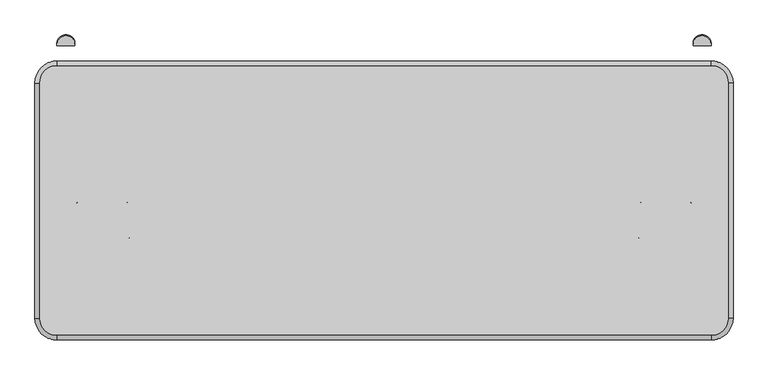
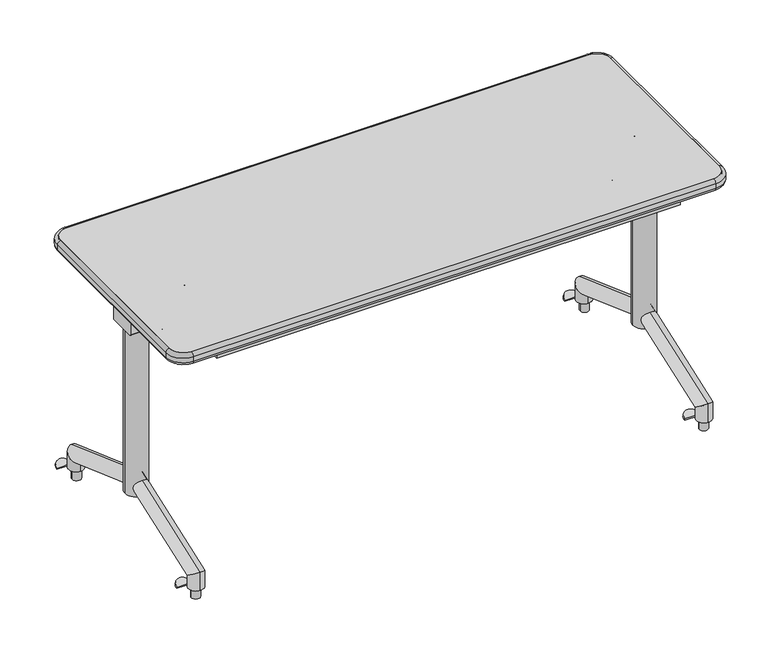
"""IFC4 building model written with IfcOpenShell, lengths in millimetres: furniture geometry, SmithSystem_AM_Table_Education_Elemental_NestAndFold_24D : 24D x 60W."""

from ifc_helpers import new_model, si_unit, point, frame, frame_2d, origin, place, context, project, spatial, polyline, circle_curve, ellipse_curve, trimmed, segment, composite_curve, outline, extrude, source, transform, mapped, element, save
from ifc_brep_helpers import plane_surface, cylinder_surface, revolved_surface, advanced_brep


def furniture_818722c3(model_context):
    return source(origin(), model_context, "Body", "SolidModel", [
        advanced_brep(
        [(1334.7134706, -300.3641301, 727.8257265), (1334.7134706, -307.6350093, 724.192725), (1327.0335156, -300.3641301, 727.8257265), (1327.0335156, -307.6350093, 724.192725), (1321.5159237, -312.5707555, 721.7265071), (1313.3879237, -312.5707555, 721.7265071), (1313.3879237, -377.8125708, 689.1274772), (1321.5159237, -377.8125708, 689.1274772), (1327.1310849, -382.8355973, 686.6176484), (1327.1310849, -390.1064765, 682.9846469), (1427.2139747, -390.1064765, 682.9846469), (1427.2139747, -382.8355973, 686.6176484), (1432.8070377, -377.8323387, 689.1175999), (1440.9350377, -377.8323387, 689.1175999), (1440.9350377, -312.6793981, 721.6722222), (1432.8070377, -312.6793981, 721.6722222), (1427.1679959, -307.6350093, 724.192725), (1427.1679959, -300.3641301, 727.8257265), (1419.6094908, -300.3641301, 727.8257265), (1419.6094908, -307.6350093, 724.192725)],
        [
            (0, 1, circle_curve(frame((1334.7134706, -303.9995697, 726.0092257), z_axis=(1.0, 0.0, 0.0), x_axis=(0.0, -0.8945471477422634, -0.44697360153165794)), 4.064)),
            (1, 0, circle_curve(frame((1334.7134706, -303.9995697, 726.0092257), z_axis=(1.0, 0.0, 0.0), x_axis=(0.0, -0.8945471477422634, -0.44697360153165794)), 4.064)),
            (0, 2),
            (2, 3, circle_curve(frame((1327.0335156, -303.9995697, 726.0092257), z_axis=(1.0, 0.0, 0.0), x_axis=(0.0, -0.8945471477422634, -0.44697360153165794)), 4.064)),
            (3, 1),
            (3, 2, circle_curve(frame((1327.0335156, -303.9995697, 726.0092257), z_axis=(1.0, 0.0, 0.0), x_axis=(0.0, -0.8945471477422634, -0.44697360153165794)), 4.064)),
            (4, 3, circle_curve(frame((1327.0335156, -312.5707555, 721.7265071), z_axis=(0.0, 0.4469736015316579, -0.8945471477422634), x_axis=(0.0, 0.8945471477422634, 0.4469736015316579)), 5.517592)),
            (2, 5, circle_curve(frame((1327.0335156, -312.5707555, 721.7265071), z_axis=(0.0, -0.4469736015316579, 0.8945471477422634), x_axis=(0.0, 0.8945471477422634, 0.4469736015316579)), 13.645592)),
            (5, 4, circle_curve(frame((1317.4519237, -312.5707555, 721.7265071), z_axis=(0.0, 0.8945471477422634, 0.44697360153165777), x_axis=(1.0, 0.0, 0.0)), 4.064)),
            (4, 5, circle_curve(frame((1317.4519237, -312.5707555, 721.7265071), z_axis=(0.0, 0.8945471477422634, 0.44697360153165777), x_axis=(1.0, 0.0, 0.0)), 4.064)),
            (5, 6),
            (6, 7, circle_curve(frame((1317.4519237, -377.8125708, 689.1274772), z_axis=(0.0, 0.8945471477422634, 0.44697360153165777), x_axis=(1.0, 0.0, 0.0)), 4.064)),
            (7, 4),
            (7, 6, circle_curve(frame((1317.4519237, -377.8125708, 689.1274772), z_axis=(0.0, 0.8945471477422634, 0.44697360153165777), x_axis=(1.0, 0.0, 0.0)), 4.064)),
            (8, 7, circle_curve(frame((1327.1310849, -377.8125708, 689.1274772), z_axis=(0.0, 0.4469736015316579, -0.8945471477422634), x_axis=(-1.0, 0.0, 0.0)), 5.6151612)),
            (6, 9, circle_curve(frame((1327.1310849, -377.8125708, 689.1274772), z_axis=(0.0, -0.4469736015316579, 0.8945471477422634), x_axis=(-1.0, 0.0, 0.0)), 13.7431612)),
            (9, 8, circle_curve(frame((1327.1310849, -386.4710369, 684.8011476), z_axis=(-1.0, 0.0, 0.0), x_axis=(0.0, 0.8945471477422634, 0.44697360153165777)), 4.064)),
            (8, 9, circle_curve(frame((1327.1310849, -386.4710369, 684.8011476), z_axis=(-1.0, 0.0, 0.0), x_axis=(0.0, 0.8945471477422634, 0.44697360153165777)), 4.064)),
            (9, 10),
            (10, 11, circle_curve(frame((1427.2139747, -386.4710369, 684.8011476), z_axis=(-1.0, 0.0, 0.0), x_axis=(0.0, 0.8945471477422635, 0.44697360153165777)), 4.064)),
            (11, 8),
            (11, 10, circle_curve(frame((1427.2139747, -386.4710369, 684.8011476), z_axis=(-1.0, 0.0, 0.0), x_axis=(0.0, 0.8945471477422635, 0.44697360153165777)), 4.064)),
            (12, 11, circle_curve(frame((1427.2139747, -377.8323387, 689.1175999), z_axis=(0.0, 0.4469736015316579, -0.8945471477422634), x_axis=(0.0, -0.8945471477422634, -0.4469736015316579)), 5.593063)),
            (10, 13, circle_curve(frame((1427.2139747, -377.8323387, 689.1175999), z_axis=(0.0, -0.4469736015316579, 0.8945471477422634), x_axis=(0.0, -0.8945471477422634, -0.4469736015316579)), 13.721063)),
            (13, 12, circle_curve(frame((1436.8710377, -377.8323387, 689.1175999), z_axis=(0.0, -0.8945471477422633, -0.44697360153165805), x_axis=(-1.0, 0.0, 0.0)), 4.064)),
            (12, 13, circle_curve(frame((1436.8710377, -377.8323387, 689.1175999), z_axis=(0.0, -0.8945471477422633, -0.44697360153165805), x_axis=(-1.0, 0.0, 0.0)), 4.064)),
            (13, 14),
            (14, 15, circle_curve(frame((1436.8710377, -312.6793981, 721.6722222), z_axis=(0.0, -0.894547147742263, -0.4469736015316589), x_axis=(-1.0, 0.0, 0.0)), 4.064)),
            (15, 12),
            (15, 14, circle_curve(frame((1436.8710377, -312.6793981, 721.6722222), z_axis=(0.0, -0.894547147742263, -0.4469736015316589), x_axis=(-1.0, 0.0, 0.0)), 4.064)),
            (16, 15, circle_curve(frame((1427.1679959, -312.6793981, 721.6722222), z_axis=(0.0, 0.4469736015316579, -0.8945471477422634), x_axis=(1.0, 0.0, 0.0)), 5.6390418)),
            (14, 17, circle_curve(frame((1427.1679959, -312.6793981, 721.6722222), z_axis=(0.0, -0.4469736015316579, 0.8945471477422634), x_axis=(1.0, 0.0, 0.0)), 13.7670418)),
            (17, 16, circle_curve(frame((1427.1679959, -303.9995697, 726.0092257), z_axis=(1.0, 0.0, 0.0), x_axis=(0.0, -0.8945471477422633, -0.446973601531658)), 4.064)),
            (16, 17, circle_curve(frame((1427.1679959, -303.9995697, 726.0092257), z_axis=(1.0, 0.0, 0.0), x_axis=(0.0, -0.8945471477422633, -0.446973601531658)), 4.064)),
            (18, 19, circle_curve(frame((1419.6094908, -303.9995697, 726.0092257), z_axis=(-1.0, 0.0, 0.0), x_axis=(0.0, -0.8945471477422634, -0.44697360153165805)), 4.064)),
            (19, 18, circle_curve(frame((1419.6094908, -303.9995697, 726.0092257), z_axis=(-1.0, 0.0, 0.0), x_axis=(0.0, -0.8945471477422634, -0.44697360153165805)), 4.064)),
            (17, 18),
            (19, 16),
        ],
        [
            plane_surface(frame((1334.7134706, -309.47432, 727.857014), z_axis=(1.0, 0.0, 0.0), x_axis=(0.0, -0.44697360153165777, 0.8945471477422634))),
            cylinder_surface(frame((1334.7134706, -303.9995697, 726.0092257), z_axis=(1.0, 0.0, 0.0), x_axis=(0.0, -0.8945471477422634, -0.44697360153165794)), 4.064),
            revolved_surface(trimmed(ellipse_curve(frame((1327.0335156, -303.9995697, 726.0092257), z_axis=(1.0, 0.0, 0.0), x_axis=(0.0, -0.8945471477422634, -0.44697360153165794)), 4.064, 4.064), [point((1327.0335156, -300.3641301, 727.8257265))], [point((1327.0335156, -307.6350093, 724.192725))], True, "CARTESIAN"), (1327.0335156, -314.4033484, 725.3941527), (0.0, -0.4469736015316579, 0.8945471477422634)),
            revolved_surface(trimmed(ellipse_curve(frame((1327.0335156, -303.9995697, 726.0092257), z_axis=(1.0, 0.0, 0.0), x_axis=(0.0, -0.8945471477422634, -0.44697360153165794)), 4.064, 4.064), [point((1327.0335156, -307.6350093, 724.192725))], [point((1327.0335156, -300.3641301, 727.8257265))], True, "CARTESIAN"), (1327.0335156, -314.4033484, 725.3941527), (0.0, -0.4469736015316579, 0.8945471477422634)),
            cylinder_surface(frame((1317.4519237, -312.5707555, 721.7265071), z_axis=(0.0, 0.8945471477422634, 0.44697360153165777), x_axis=(1.0, 0.0, 0.0)), 4.064),
            revolved_surface(trimmed(ellipse_curve(frame((1317.4519237, -377.8125708, 689.1274772), z_axis=(0.0, 0.8945471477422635, 0.4469736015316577), x_axis=(1.0, 0.0, 0.0)), 4.064, 4.064), [point((1313.3879237, -377.8125708, 689.1274772))], [point((1321.5159237, -377.8125708, 689.1274772))], True, "CARTESIAN"), (1327.1310849, -379.6451638, 692.7951229), (0.0, -0.4469736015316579, 0.8945471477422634)),
            revolved_surface(trimmed(ellipse_curve(frame((1317.4519237, -377.8125708, 689.1274772), z_axis=(0.0, 0.8945471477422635, 0.4469736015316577), x_axis=(1.0, 0.0, 0.0)), 4.064, 4.064), [point((1321.5159237, -377.8125708, 689.1274772))], [point((1313.3879237, -377.8125708, 689.1274772))], True, "CARTESIAN"), (1327.1310849, -379.6451638, 692.7951229), (0.0, -0.4469736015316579, 0.8945471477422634)),
            cylinder_surface(frame((1327.1310849, -386.4710369, 684.8011476), z_axis=(-1.0, 0.0, 0.0), x_axis=(0.0, 0.8945471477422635, 0.44697360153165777)), 4.064),
            revolved_surface(trimmed(ellipse_curve(frame((1427.2139747, -386.4710369, 684.8011476), z_axis=(-1.0, 0.0, 0.0), x_axis=(0.0, 0.8945471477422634, 0.4469736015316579)), 4.064, 4.064), [point((1427.2139747, -390.1064765, 682.9846469))], [point((1427.2139747, -382.8355973, 686.6176484))], True, "CARTESIAN"), (1427.2139747, -379.6649317, 692.7852455), (0.0, -0.4469736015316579, 0.8945471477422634)),
            revolved_surface(trimmed(ellipse_curve(frame((1427.2139747, -386.4710369, 684.8011476), z_axis=(-1.0, 0.0, 0.0), x_axis=(0.0, 0.8945471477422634, 0.4469736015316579)), 4.064, 4.064), [point((1427.2139747, -382.8355973, 686.6176484))], [point((1427.2139747, -390.1064765, 682.9846469))], True, "CARTESIAN"), (1427.2139747, -379.6649317, 692.7852455), (0.0, -0.4469736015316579, 0.8945471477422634)),
            cylinder_surface(frame((1436.8710377, -377.8323387, 689.1175999), z_axis=(0.0, -0.894547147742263, -0.4469736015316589), x_axis=(-1.0, 0.0, 0.0)), 4.064),
            revolved_surface(trimmed(ellipse_curve(frame((1436.8710377, -312.6793981, 721.6722222), z_axis=(0.0, -0.8945471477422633, -0.4469736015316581), x_axis=(-1.0, 0.0, 0.0)), 4.064, 4.064), [point((1440.9350377, -312.6793981, 721.6722222))], [point((1432.8070377, -312.6793981, 721.6722222))], True, "CARTESIAN"), (1427.1679959, -314.511991, 725.3398679), (0.0, -0.4469736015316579, 0.8945471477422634)),
            revolved_surface(trimmed(ellipse_curve(frame((1436.8710377, -312.6793981, 721.6722222), z_axis=(0.0, -0.8945471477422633, -0.4469736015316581), x_axis=(-1.0, 0.0, 0.0)), 4.064, 4.064), [point((1432.8070377, -312.6793981, 721.6722222))], [point((1440.9350377, -312.6793981, 721.6722222))], True, "CARTESIAN"), (1427.1679959, -314.511991, 725.3398679), (0.0, -0.4469736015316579, 0.8945471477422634)),
            plane_surface(frame((1419.6094908, -309.47432, 727.857014), z_axis=(-1.0, 0.0, 0.0), x_axis=(0.0, -0.4469736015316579, 0.8945471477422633))),
            cylinder_surface(frame((1427.1679959, -303.9995697, 726.0092257), z_axis=(1.0, 0.0, 0.0), x_axis=(0.0, -0.8945471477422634, -0.44697360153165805)), 4.064),
        ],
        [
            (0, [[1, 2]]),
            (1, [[-1, 3, 4, 5]]),
            (1, [[-2, -5, 6, -3]]),
            (2, [[7, -4, 8, 9]]),
            (3, [[-8, -6, -7, 10]]),
            (4, [[-9, 11, 12, 13]]),
            (4, [[-10, -13, 14, -11]]),
            (5, [[15, -12, 16, 17]]),
            (6, [[-16, -14, -15, 18]]),
            (7, [[-17, 19, 20, 21]]),
            (7, [[-18, -21, 22, -19]]),
            (8, [[23, -20, 24, 25]]),
            (9, [[-24, -22, -23, 26]]),
            (10, [[-25, 27, 28, 29]]),
            (10, [[-26, -29, 30, -27]]),
            (11, [[31, -28, 32, 33]]),
            (12, [[-32, -30, -31, 34]]),
            (13, [[35, 36]]),
            (14, [[-33, 37, -36, 38]]),
            (14, [[-34, -38, -35, -37]]),
        ],
    ),
        advanced_brep(
        [(189.2865294, -307.6222215, 724.1897867), (189.2865294, -300.3513423, 727.8227881), (196.9664844, -307.6222215, 724.1897867), (196.9664844, -300.3513423, 727.8227881), (210.6222023, -312.5670258, 721.7190427), (202.4942023, -312.5670258, 721.7190427), (202.4942023, -377.8088411, 689.1200128), (210.6222023, -377.8088411, 689.1200128), (196.8689151, -390.1118049, 682.9726565), (196.8689151, -382.8409257, 686.605658), (96.7860253, -382.8409257, 686.605658), (96.7860253, -390.1118049, 682.9726565), (83.0548363, -377.8286091, 689.1101355), (91.1828363, -377.8286091, 689.1101355), (91.1828363, -312.6756684, 721.6647578), (83.0548363, -312.6756684, 721.6647578), (96.8320041, -300.3513423, 727.8227881), (96.8320041, -307.6222215, 724.1897867), (104.3905092, -307.6222215, 724.1897867), (104.3905092, -300.3513423, 727.8227881)],
        [
            (0, 1, circle_curve(frame((189.2865294, -303.9867819, 726.0062874), z_axis=(-1.0, 0.0, 0.0), x_axis=(0.0, 0.8945471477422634, 0.4469736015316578)), 4.064)),
            (1, 0, circle_curve(frame((189.2865294, -303.9867819, 726.0062874), z_axis=(-1.0, 0.0, 0.0), x_axis=(0.0, 0.8945471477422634, 0.4469736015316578)), 4.064)),
            (0, 2),
            (2, 3, circle_curve(frame((196.9664844, -303.9867819, 726.0062874), z_axis=(-1.0, 0.0, 0.0), x_axis=(0.0, 0.8945471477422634, 0.4469736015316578)), 4.064)),
            (3, 1),
            (3, 2, circle_curve(frame((196.9664844, -303.9867819, 726.0062874), z_axis=(-1.0, 0.0, 0.0), x_axis=(0.0, 0.8945471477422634, 0.4469736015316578)), 4.064)),
            (4, 3, circle_curve(frame((196.9664844, -312.5670258, 721.7190427), z_axis=(0.0, -0.4469736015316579, 0.8945471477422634), x_axis=(0.0, 0.8945471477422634, 0.4469736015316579)), 13.6557179)),
            (2, 5, circle_curve(frame((196.9664844, -312.5670258, 721.7190427), z_axis=(0.0, 0.4469736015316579, -0.8945471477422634), x_axis=(0.0, 0.8945471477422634, 0.4469736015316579)), 5.5277179)),
            (5, 4, circle_curve(frame((206.5582023, -312.5670258, 721.7190427), z_axis=(0.0, 0.8945471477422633, 0.446973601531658), x_axis=(1.0, 0.0, 0.0)), 4.064)),
            (4, 5, circle_curve(frame((206.5582023, -312.5670258, 721.7190427), z_axis=(0.0, 0.8945471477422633, 0.446973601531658), x_axis=(1.0, 0.0, 0.0)), 4.064)),
            (5, 6),
            (6, 7, circle_curve(frame((206.5582023, -377.8088411, 689.1200128), z_axis=(0.0, 0.8945471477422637, 0.4469736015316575), x_axis=(1.0, 0.0, 0.0)), 4.064)),
            (7, 4),
            (7, 6, circle_curve(frame((206.5582023, -377.8088411, 689.1200128), z_axis=(0.0, 0.8945471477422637, 0.4469736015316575), x_axis=(1.0, 0.0, 0.0)), 4.064)),
            (8, 7, circle_curve(frame((196.8689151, -377.8088411, 689.1200128), z_axis=(0.0, -0.4469736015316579, 0.8945471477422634), x_axis=(1.0, 0.0, 0.0)), 13.7532872)),
            (6, 9, circle_curve(frame((196.8689151, -377.8088411, 689.1200128), z_axis=(0.0, 0.4469736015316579, -0.8945471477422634), x_axis=(1.0, 0.0, 0.0)), 5.6252872)),
            (9, 8, circle_curve(frame((196.8689151, -386.4763653, 684.7891573), z_axis=(1.0, 0.0, 0.0), x_axis=(0.0, -0.8945471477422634, -0.44697360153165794)), 4.064)),
            (8, 9, circle_curve(frame((196.8689151, -386.4763653, 684.7891573), z_axis=(1.0, 0.0, 0.0), x_axis=(0.0, -0.8945471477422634, -0.44697360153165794)), 4.064)),
            (9, 10),
            (10, 11, circle_curve(frame((96.7860253, -386.4763653, 684.7891573), z_axis=(1.0, 0.0, 0.0), x_axis=(0.0, -0.8945471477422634, -0.446973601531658)), 4.064)),
            (11, 8),
            (11, 10, circle_curve(frame((96.7860253, -386.4763653, 684.7891573), z_axis=(1.0, 0.0, 0.0), x_axis=(0.0, -0.8945471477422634, -0.446973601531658)), 4.064)),
            (12, 11, circle_curve(frame((96.7860253, -377.8286091, 689.1101355), z_axis=(0.0, -0.4469736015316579, 0.8945471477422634), x_axis=(0.0, -0.8945471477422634, -0.4469736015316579)), 13.7311889)),
            (10, 13, circle_curve(frame((96.7860253, -377.8286091, 689.1101355), z_axis=(0.0, 0.4469736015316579, -0.8945471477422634), x_axis=(0.0, -0.8945471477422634, -0.4469736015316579)), 5.6031889)),
            (13, 12, circle_curve(frame((87.1188363, -377.8286091, 689.1101355), z_axis=(0.0, -0.8945471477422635, -0.44697360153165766), x_axis=(-1.0, 0.0, 0.0)), 4.064)),
            (12, 13, circle_curve(frame((87.1188363, -377.8286091, 689.1101355), z_axis=(0.0, -0.8945471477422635, -0.44697360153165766), x_axis=(-1.0, 0.0, 0.0)), 4.064)),
            (13, 14),
            (14, 15, circle_curve(frame((87.1188363, -312.6756684, 721.6647578), z_axis=(0.0, -0.8945471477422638, -0.446973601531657), x_axis=(-1.0, 0.0, 0.0)), 4.064)),
            (15, 12),
            (15, 14, circle_curve(frame((87.1188363, -312.6756684, 721.6647578), z_axis=(0.0, -0.8945471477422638, -0.446973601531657), x_axis=(-1.0, 0.0, 0.0)), 4.064)),
            (16, 15, circle_curve(frame((96.8320041, -312.6756684, 721.6647578), z_axis=(0.0, -0.4469736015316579, 0.8945471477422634), x_axis=(-1.0, 0.0, 0.0)), 13.7771678)),
            (14, 17, circle_curve(frame((96.8320041, -312.6756684, 721.6647578), z_axis=(0.0, 0.4469736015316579, -0.8945471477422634), x_axis=(-1.0, 0.0, 0.0)), 5.6491678)),
            (17, 16, circle_curve(frame((96.8320041, -303.9867819, 726.0062874), z_axis=(-1.0, 0.0, 0.0), x_axis=(0.0, 0.8945471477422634, 0.44697360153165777)), 4.064)),
            (16, 17, circle_curve(frame((96.8320041, -303.9867819, 726.0062874), z_axis=(-1.0, 0.0, 0.0), x_axis=(0.0, 0.8945471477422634, 0.44697360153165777)), 4.064)),
            (18, 19, circle_curve(frame((104.3905092, -303.9867819, 726.0062874), z_axis=(1.0, 0.0, 0.0), x_axis=(0.0, 0.8945471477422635, 0.44697360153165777)), 4.064)),
            (19, 18, circle_curve(frame((104.3905092, -303.9867819, 726.0062874), z_axis=(1.0, 0.0, 0.0), x_axis=(0.0, 0.8945471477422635, 0.44697360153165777)), 4.064)),
            (17, 18),
            (19, 16),
        ],
        [
            plane_surface(frame((189.2865294, -309.47432, 727.857014), z_axis=(-1.0, 0.0, 0.0), x_axis=(0.0, -0.4469736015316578, 0.8945471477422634))),
            cylinder_surface(frame((189.2865294, -303.9867819, 726.0062874), z_axis=(-0.9999999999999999, 0.0, 0.0), x_axis=(0.0, 0.8945471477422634, 0.4469736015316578)), 4.064),
            revolved_surface(trimmed(ellipse_curve(frame((196.9664844, -303.9867819, 726.0062874), z_axis=(-1.0, 0.0, 0.0), x_axis=(0.0, 0.8945471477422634, 0.4469736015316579)), 4.064, 4.064), [point((196.9664844, -307.6222215, 724.1897867))], [point((196.9664844, -300.3513423, 727.8227881))], True, "CARTESIAN"), (196.9664844, -314.4033484, 725.3941527), (0.0, 0.4469736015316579, -0.8945471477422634)),
            revolved_surface(trimmed(ellipse_curve(frame((196.9664844, -303.9867819, 726.0062874), z_axis=(-1.0, 0.0, 0.0), x_axis=(0.0, 0.8945471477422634, 0.4469736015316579)), 4.064, 4.064), [point((196.9664844, -300.3513423, 727.8227881))], [point((196.9664844, -307.6222215, 724.1897867))], True, "CARTESIAN"), (196.9664844, -314.4033484, 725.3941527), (0.0, 0.4469736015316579, -0.8945471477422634)),
            cylinder_surface(frame((206.5582023, -312.5670258, 721.7190427), z_axis=(0.0, 0.8945471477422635, 0.4469736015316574), x_axis=(1.0, 0.0, 0.0)), 4.064),
            revolved_surface(trimmed(ellipse_curve(frame((206.5582023, -377.8088411, 689.1200128), z_axis=(0.0, 0.8945471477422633, 0.4469736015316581), x_axis=(1.0, 0.0, 0.0)), 4.064, 4.064), [point((202.4942023, -377.8088411, 689.1200128))], [point((210.6222023, -377.8088411, 689.1200128))], True, "CARTESIAN"), (196.8689151, -379.6451638, 692.7951229), (0.0, 0.4469736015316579, -0.8945471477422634)),
            revolved_surface(trimmed(ellipse_curve(frame((206.5582023, -377.8088411, 689.1200128), z_axis=(0.0, 0.8945471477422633, 0.4469736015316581), x_axis=(1.0, 0.0, 0.0)), 4.064, 4.064), [point((210.6222023, -377.8088411, 689.1200128))], [point((202.4942023, -377.8088411, 689.1200128))], True, "CARTESIAN"), (196.8689151, -379.6451638, 692.7951229), (0.0, 0.4469736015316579, -0.8945471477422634)),
            cylinder_surface(frame((196.8689151, -386.4763653, 684.7891573), z_axis=(1.0, 0.0, 0.0), x_axis=(0.0, -0.8945471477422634, -0.446973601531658)), 4.064),
            revolved_surface(trimmed(ellipse_curve(frame((96.7860253, -386.4763653, 684.7891573), z_axis=(1.0, 0.0, 0.0), x_axis=(0.0, -0.8945471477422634, -0.446973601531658)), 4.064, 4.064), [point((96.7860253, -382.8409257, 686.605658))], [point((96.7860253, -390.1118049, 682.9726565))], True, "CARTESIAN"), (96.7860253, -379.6649317, 692.7852455), (0.0, 0.4469736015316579, -0.8945471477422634)),
            revolved_surface(trimmed(ellipse_curve(frame((96.7860253, -386.4763653, 684.7891573), z_axis=(1.0, 0.0, 0.0), x_axis=(0.0, -0.8945471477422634, -0.446973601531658)), 4.064, 4.064), [point((96.7860253, -390.1118049, 682.9726565))], [point((96.7860253, -382.8409257, 686.605658))], True, "CARTESIAN"), (96.7860253, -379.6649317, 692.7852455), (0.0, 0.4469736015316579, -0.8945471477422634)),
            cylinder_surface(frame((87.1188363, -377.8286091, 689.1101355), z_axis=(0.0, -0.8945471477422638, -0.446973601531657), x_axis=(-1.0, 0.0, 0.0)), 4.064),
            revolved_surface(trimmed(ellipse_curve(frame((87.1188363, -312.6756684, 721.6647578), z_axis=(0.0, -0.8945471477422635, -0.4469736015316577), x_axis=(-1.0, 0.0, 0.0)), 4.064, 4.064), [point((91.1828363, -312.6756684, 721.6647578))], [point((83.0548363, -312.6756684, 721.6647578))], True, "CARTESIAN"), (96.8320041, -314.511991, 725.3398679), (0.0, 0.4469736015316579, -0.8945471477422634)),
            revolved_surface(trimmed(ellipse_curve(frame((87.1188363, -312.6756684, 721.6647578), z_axis=(0.0, -0.8945471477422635, -0.4469736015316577), x_axis=(-1.0, 0.0, 0.0)), 4.064, 4.064), [point((83.0548363, -312.6756684, 721.6647578))], [point((91.1828363, -312.6756684, 721.6647578))], True, "CARTESIAN"), (96.8320041, -314.511991, 725.3398679), (0.0, 0.4469736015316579, -0.8945471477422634)),
            plane_surface(frame((104.3905092, -309.47432, 727.857014), z_axis=(1.0, 0.0, 0.0), x_axis=(0.0, -0.4469736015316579, 0.8945471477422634))),
            cylinder_surface(frame((96.8320041, -303.9867819, 726.0062874), z_axis=(-1.0000000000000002, 0.0, 0.0), x_axis=(0.0, 0.8945471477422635, 0.44697360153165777)), 4.064),
        ],
        [
            (0, [[1, 2]]),
            (1, [[-1, 3, 4, 5]]),
            (1, [[-2, -5, 6, -3]]),
            (2, [[7, -4, 8, 9]]),
            (3, [[-8, -6, -7, 10]]),
            (4, [[-9, 11, 12, 13]]),
            (4, [[-10, -13, 14, -11]]),
            (5, [[15, -12, 16, 17]]),
            (6, [[-16, -14, -15, 18]]),
            (7, [[-17, 19, 20, 21]]),
            (7, [[-18, -21, 22, -19]]),
            (8, [[23, -20, 24, 25]]),
            (9, [[-24, -22, -23, 26]]),
            (10, [[-25, 27, 28, 29]]),
            (10, [[-26, -29, 30, -27]]),
            (11, [[31, -28, 32, 33]]),
            (12, [[-32, -30, -31, 34]]),
            (13, [[35, 36]]),
            (14, [[-33, 37, -36, 38]]),
            (14, [[-34, -38, -35, -37]]),
        ],
    ),
        extrude(outline(composite_curve([segment(trimmed(circle_curve(frame_2d((67.6376194, -304.8)), 30.1619336), [point((37.4756858, -304.8))], [point((97.799553, -304.8))], False, "CARTESIAN"), True, "CONTINUOUS"), segment(trimmed(circle_curve(frame_2d((67.6376194, -304.8)), 30.1619336), [point((97.799553, -304.8))], [point((37.4756858, -304.8))], False, "CARTESIAN"), True, "CONTINUOUS")], self_intersect=False)), frame((0.0, 0.0, 176.5765345), z_axis=(0.0, 0.0, 1.0), x_axis=(1.0, 0.0, 0.0)), (0.0, 0.0, 1.0), 482.8708043),
        extrude(outline(composite_curve([segment(trimmed(circle_curve(frame_2d((1456.3623806, -304.8)), 30.1619336), [point((1426.200447, -304.8))], [point((1486.5243142, -304.8))], False, "CARTESIAN"), True, "CONTINUOUS"), segment(trimmed(circle_curve(frame_2d((1456.3623806, -304.8)), 30.1619336), [point((1486.5243142, -304.8))], [point((1426.200447, -304.8))], False, "CARTESIAN"), True, "CONTINUOUS")], self_intersect=False)), frame((0.0, 0.0, 176.5765345), z_axis=(0.0, 0.0, 1.0), x_axis=(1.0, 0.0, 0.0)), (0.0, 0.0, 1.0), 482.8708043),
        extrude(outline(polyline([(161.8904019, -551.0151675), (133.8581916, -551.0151675), (133.8581916, -327.1633652), (161.8904019, -327.1633652), (161.8904019, -551.0151675)])), frame((0.0, 0.0, 720.280274), z_axis=(0.0, 0.0, 1.0), x_axis=(1.0, 0.0, 0.0)), (0.0, 0.0, 1.0), 3.0744342),
        extrude(outline(polyline([(1390.1418084, -551.0151675), (1362.1095981, -551.0151675), (1362.1095981, -327.1633652), (1390.1418084, -327.1633652), (1390.1418084, -551.0151675)])), frame((0.0, 0.0, 720.280274), z_axis=(0.0, 0.0, 1.0), x_axis=(1.0, 0.0, 0.0)), (0.0, 0.0, 1.0), 3.0744342),
        extrude(outline(polyline([(1395.6745397, -551.0143137), (1395.6745397, -581.0147172), (128.3254603, -581.0147172), (128.3254603, -551.0143137), (1395.6745397, -551.0143137)])), frame((0.0, 0.0, 702.9875008), z_axis=(0.0, 0.0, 1.0), x_axis=(1.0, 0.0, 0.0)), (0.0, 0.0, 1.0), 20.3672075),
        extrude(outline(polyline([(-282.4370254, 730.2285912), (-260.3053067, 730.2285912), (-260.3053067, 727.8836076), (-279.3992263, 727.8836076), (-279.3992263, 699.4317459), (-330.2007737, 699.4317459), (-330.2007737, 727.8836076), (-349.2946933, 727.8836076), (-349.2946933, 730.2285912), (-327.1629746, 730.2285912), (-327.1629746, 701.4207676), (-282.4370254, 701.4207676), (-282.4370254, 730.2285912)])), frame((211.3171616, 0.0, 0.0), z_axis=(1.0, 0.0, 0.0), x_axis=(0.0, 1.0, 0.0)), (0.0, 0.0, 1.0), 1101.3656767),
        extrude(outline(polyline([(699.4317459, 102.364461), (699.4317459, 191.3646412), (730.2285912, 191.3646412), (730.2285912, 188.3699958), (702.6757476, 188.3699958), (702.6757476, 105.3591064), (730.2285912, 105.3591064), (730.2285912, 102.364461), (699.4317459, 102.364461)])), frame((0.0, -479.7995835, 0.0), z_axis=(0.0, 1.0, 0.0), x_axis=(0.0, 0.0, 1.0)), (0.0, 0.0, 1.0), 349.999167),
        extrude(outline(polyline([(699.4317459, 1421.635539), (730.2285912, 1421.635539), (730.2285912, 1418.6408936), (702.6757476, 1418.6408936), (702.6757476, 1335.6300042), (730.2285912, 1335.6300042), (730.2285912, 1332.6353588), (699.4317459, 1332.6353588), (699.4317459, 1421.635539)])), frame((0.0, -479.7995835, 0.0), z_axis=(0.0, 1.0, 0.0), x_axis=(0.0, 0.0, 1.0)), (0.0, 0.0, 1.0), 349.999167),
        extrude(outline(composite_curve([segment(polyline([(-341.7081299, 699.4317459), (-267.7421288, 699.4317459)]), True, "CONTINUOUS"), segment(trimmed(circle_curve(frame_2d((-267.7421288, 696.268135)), 3.1636109), [point((-267.7421288, 699.4317459))], [point((-264.5785179, 696.268135))], False, "CARTESIAN"), True, "CONTINUOUS"), segment(polyline([(-264.5785179, 696.268135), (-264.5785179, 662.5890828)]), True, "CONTINUOUS"), segment(trimmed(circle_curve(frame_2d((-267.720262, 662.5890828)), 3.1417441), [point((-264.5785179, 662.5890828))], [point((-267.720262, 659.4473388))], False, "CARTESIAN"), True, "CONTINUOUS"), segment(polyline([(-267.720262, 659.4473388), (-341.8879819, 659.4473388)]), True, "CONTINUOUS"), segment(trimmed(circle_curve(frame_2d((-341.8879819, 662.3885905)), 2.9412518), [point((-341.8879819, 659.4473388))], [point((-344.8292336, 662.3885905))], False, "CARTESIAN"), True, "CONTINUOUS"), segment(polyline([(-344.8292336, 662.3885905), (-344.8292336, 696.3106422)]), True, "CONTINUOUS"), segment(trimmed(circle_curve(frame_2d((-341.7081299, 696.3106422)), 3.1211038), [point((-344.8292336, 696.3106422))], [point((-341.7081299, 699.4317459))], False, "CARTESIAN"), True, "CONTINUOUS")], self_intersect=False)), frame((29.2900918, 0.0, 0.0), z_axis=(1.0, 0.0, 0.0), x_axis=(0.0, 1.0, 0.0)), (0.0, 0.0, 1.0), 1465.4198163),
        advanced_brep(
        [(0.0, -47.752, 752.475029), (47.752, 0.0, 752.475029), (47.752, 0.0, 739.7749708), (0.0, -47.752, 739.7749708), (9.652, -47.752, 762.0), (47.752, -9.652, 762.0), (9.652, -47.752, 730.2285912), (47.752, -9.652, 730.2285912), (0.0, -561.848, 739.7749708), (0.0, -561.848, 752.475029), (9.652, -561.848, 762.0), (9.652, -561.848, 730.2285912), (47.752, -609.6, 752.475029), (47.752, -609.6, 739.7749708), (47.752, -599.948, 762.0), (47.752, -599.948, 730.2285912), (1476.248, -609.6, 739.7749708), (1476.248, -609.6, 752.475029), (1476.248, -599.948, 762.0), (1476.248, -599.948, 730.2285912), (1524.0, -561.848, 752.475029), (1524.0, -561.848, 739.7749708), (1514.348, -561.848, 762.0), (1514.348, -561.848, 730.2285912), (1524.0, -47.752, 739.7749708), (1524.0, -47.752, 752.475029), (1514.348, -47.752, 762.0), (1514.348, -47.752, 730.2285912), (1476.248, 0.0, 752.475029), (1476.248, 0.0, 739.7749708), (1476.248, -9.652, 762.0), (1476.248, -9.652, 730.2285912)],
        [
            (0, 1, circle_curve(frame((47.752, -47.752, 752.475029), z_axis=(0.0, 0.0, -1.0), x_axis=(0.0, 1.0, 0.0)), 47.752)),
            (1, 2),
            (2, 3, circle_curve(frame((47.752, -47.752, 739.7749708), z_axis=(0.0, 0.0, 1.0), x_axis=(0.0, 1.0, 0.0)), 47.752)),
            (3, 0),
            (4, 5, circle_curve(frame((47.752, -47.752, 762.0), z_axis=(0.0, 0.0, -1.0), x_axis=(0.0, 1.0, 0.0)), 38.1)),
            (5, 1, circle_curve(frame((47.752, -9.5258069, 752.475029), z_axis=(-1.0, 0.0, 0.0), x_axis=(0.0, -1.0, 0.0)), 9.5258069)),
            (0, 4, circle_curve(frame((9.5258069, -47.752, 752.475029), z_axis=(0.0, 1.0, 0.0), x_axis=(1.0, 0.0, 0.0)), 9.5258069)),
            (6, 7, circle_curve(frame((47.752, -47.752, 730.2285912), z_axis=(0.0, 0.0, -1.0), x_axis=(0.0, 1.0, 0.0)), 38.1)),
            (7, 5),
            (4, 6),
            (2, 7, circle_curve(frame((47.752, -9.5469575, 739.7749708), z_axis=(-1.0, 0.0, 0.0), x_axis=(0.0, -1.0, 0.0)), 9.5469575)),
            (6, 3, circle_curve(frame((9.5469575, -47.752, 739.7749708), z_axis=(0.0, 1.0, 0.0), x_axis=(1.0, 0.0, 0.0)), 9.5469575)),
            (3, 8),
            (8, 9),
            (9, 0),
            (9, 10, circle_curve(frame((9.5258069, -561.848, 752.475029), z_axis=(0.0, 1.0, 0.0), x_axis=(1.0, 0.0, 0.0)), 9.5258069)),
            (10, 4),
            (10, 11),
            (11, 6),
            (11, 8, circle_curve(frame((9.5469575, -561.848, 739.7749708), z_axis=(0.0, 1.0, 0.0), x_axis=(1.0, 0.0, 0.0)), 9.5469575)),
            (12, 9, circle_curve(frame((47.752, -561.848, 752.475029), z_axis=(0.0, 0.0, -1.0), x_axis=(-1.0, 0.0, 0.0)), 47.752)),
            (8, 13, circle_curve(frame((47.752, -561.848, 739.7749708), z_axis=(0.0, 0.0, 1.0), x_axis=(-1.0, 0.0, 0.0)), 47.752)),
            (13, 12),
            (14, 10, circle_curve(frame((47.752, -561.848, 762.0), z_axis=(0.0, 0.0, -1.0), x_axis=(-1.0, 0.0, 0.0)), 38.1)),
            (12, 14, circle_curve(frame((47.752, -600.0741931, 752.475029), z_axis=(-1.0, 0.0, 0.0), x_axis=(0.0, 1.0, 0.0)), 9.5258069)),
            (15, 11, circle_curve(frame((47.752, -561.848, 730.2285912), z_axis=(0.0, 0.0, -1.0), x_axis=(-1.0, 0.0, 0.0)), 38.1)),
            (14, 15),
            (15, 13, circle_curve(frame((47.752, -600.0530425, 739.7749708), z_axis=(-1.0, 0.0, 0.0), x_axis=(0.0, 1.0, 0.0)), 9.5469575)),
            (13, 16),
            (16, 17),
            (17, 12),
            (17, 18, circle_curve(frame((1476.248, -600.0741931, 752.475029), z_axis=(-1.0, 0.0, 0.0), x_axis=(0.0, 1.0, 0.0)), 9.5258069)),
            (18, 14),
            (18, 19),
            (19, 15),
            (19, 16, circle_curve(frame((1476.248, -600.0530425, 739.7749708), z_axis=(-1.0, 0.0, 0.0), x_axis=(0.0, 1.0, 0.0)), 9.5469575)),
            (20, 17, circle_curve(frame((1476.248, -561.848, 752.475029), z_axis=(0.0, 0.0, -1.0), x_axis=(0.0, -1.0, 0.0)), 47.752)),
            (16, 21, circle_curve(frame((1476.248, -561.848, 739.7749708), z_axis=(0.0, 0.0, 1.0), x_axis=(0.0, -1.0, 0.0)), 47.752)),
            (21, 20),
            (22, 18, circle_curve(frame((1476.248, -561.848, 762.0), z_axis=(0.0, 0.0, -1.0), x_axis=(0.0, -1.0, 0.0)), 38.1)),
            (20, 22, circle_curve(frame((1514.4741931, -561.848, 752.475029), z_axis=(0.0, -1.0, 0.0), x_axis=(-1.0, 0.0, 0.0)), 9.5258069)),
            (23, 19, circle_curve(frame((1476.248, -561.848, 730.2285912), z_axis=(0.0, 0.0, -1.0), x_axis=(0.0, -1.0, 0.0)), 38.1)),
            (22, 23),
            (23, 21, circle_curve(frame((1514.4530425, -561.848, 739.7749708), z_axis=(0.0, -1.0, 0.0), x_axis=(-1.0, 0.0, 0.0)), 9.5469575)),
            (21, 24),
            (24, 25),
            (25, 20),
            (25, 26, circle_curve(frame((1514.4741931, -47.752, 752.475029), z_axis=(0.0, -1.0, 0.0), x_axis=(-1.0, 0.0, 0.0)), 9.5258069)),
            (26, 22),
            (26, 27),
            (27, 23),
            (27, 24, circle_curve(frame((1514.4530425, -47.752, 739.7749708), z_axis=(0.0, -1.0, 0.0), x_axis=(-1.0, 0.0, 0.0)), 9.5469575)),
            (28, 25, circle_curve(frame((1476.248, -47.752, 752.475029), z_axis=(0.0, 0.0, -1.0), x_axis=(1.0, 0.0, 0.0)), 47.752)),
            (24, 29, circle_curve(frame((1476.248, -47.752, 739.7749708), z_axis=(0.0, 0.0, 1.0), x_axis=(1.0, 0.0, 0.0)), 47.752)),
            (29, 28),
            (30, 26, circle_curve(frame((1476.248, -47.752, 762.0), z_axis=(0.0, 0.0, -1.0), x_axis=(1.0, 0.0, 0.0)), 38.1)),
            (28, 30, circle_curve(frame((1476.248, -9.5258069, 752.475029), z_axis=(1.0, 0.0, 0.0), x_axis=(0.0, -1.0, 0.0)), 9.5258069)),
            (31, 27, circle_curve(frame((1476.248, -47.752, 730.2285912), z_axis=(0.0, 0.0, -1.0), x_axis=(1.0, 0.0, 0.0)), 38.1)),
            (30, 31),
            (31, 29, circle_curve(frame((1476.248, -9.5469575, 739.7749708), z_axis=(1.0, 0.0, 0.0), x_axis=(0.0, -1.0, 0.0)), 9.5469575)),
            (29, 2),
            (1, 28),
            (5, 30),
            (7, 31),
        ],
        [
            cylinder_surface(frame((47.752, -47.752, 0.0), z_axis=(0.0, 0.0, 1.0), x_axis=(0.0, 1.0, 0.0)), 47.752),
            revolved_surface(trimmed(ellipse_curve(frame((47.752, -9.5258069, 752.475029), z_axis=(1.0, 0.0, 0.0), x_axis=(0.0, -1.0, 0.0)), 9.5258069, 9.5258069), [point((47.752, 0.0, 752.475029))], [point((47.752, -9.652, 762.0))], True, "CARTESIAN"), (47.752, -47.752, 0.0), (0.0, 0.0, 1.0)),
            revolved_surface(polyline([(47.752, -9.652000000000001, 762.0), (47.752, -9.652000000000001, 730.2285912)]), (47.752, -47.752, 0.0), (0.0, 0.0, 1.0)),
            revolved_surface(trimmed(ellipse_curve(frame((47.752, -9.5469575, 739.7749708), z_axis=(1.0, 0.0, 0.0), x_axis=(0.0, -1.0, 0.0)), 9.5469575, 9.5469575), [point((47.752, -9.652, 730.2285912))], [point((47.752, 0.0, 739.7749708))], True, "CARTESIAN"), (47.752, -47.752, 0.0), (0.0, 0.0, 1.0)),
            plane_surface(frame((0.0, -47.752, 739.7749708), z_axis=(-1.0, 0.0, 0.0), x_axis=(0.0, -1.0, 0.0))),
            cylinder_surface(frame((9.5258069, -47.752, 752.475029), z_axis=(0.0, 1.0, 0.0), x_axis=(1.0, 0.0, 0.0)), 9.5258069),
            plane_surface(frame((9.652, -47.752, 762.0), z_axis=(1.0, 0.0, 0.0), x_axis=(0.0, -1.0, 0.0))),
            cylinder_surface(frame((9.5469575, -47.752, 739.7749708), z_axis=(0.0, 1.0, 0.0), x_axis=(1.0, 0.0, 0.0)), 9.5469575),
            cylinder_surface(frame((47.752, -561.848, 0.0), z_axis=(0.0, 0.0, 1.0), x_axis=(-1.0, 0.0, 0.0)), 47.752),
            revolved_surface(trimmed(ellipse_curve(frame((9.5258069, -561.848, 752.475029), z_axis=(0.0, 1.0, 0.0), x_axis=(1.0, 0.0, 0.0)), 9.5258069, 9.5258069), [point((0.0, -561.848, 752.475029))], [point((9.652, -561.848, 762.0))], True, "CARTESIAN"), (47.752, -561.848, 0.0), (0.0, 0.0, 1.0)),
            revolved_surface(polyline([(9.652000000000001, -561.848, 762.0), (9.652000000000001, -561.848, 730.2285912)]), (47.752, -561.848, 0.0), (0.0, 0.0, 1.0)),
            revolved_surface(trimmed(ellipse_curve(frame((9.5469575, -561.848, 739.7749708), z_axis=(0.0, 1.0, 0.0), x_axis=(1.0, 0.0, 0.0)), 9.5469575, 9.5469575), [point((9.652, -561.848, 730.2285912))], [point((0.0, -561.848, 739.7749708))], True, "CARTESIAN"), (47.752, -561.848, 0.0), (0.0, 0.0, 1.0)),
            plane_surface(frame((47.752, -609.6, 739.7749708), z_axis=(0.0, -1.0, 0.0), x_axis=(1.0, 0.0, 0.0))),
            cylinder_surface(frame((47.752, -600.0741931, 752.475029), z_axis=(-1.0, 0.0, 0.0), x_axis=(0.0, 1.0, 0.0)), 9.5258069),
            plane_surface(frame((47.752, -599.948, 762.0), z_axis=(0.0, 1.0, 0.0), x_axis=(1.0, 0.0, 0.0))),
            cylinder_surface(frame((47.752, -600.0530425, 739.7749708), z_axis=(-1.0, 0.0, 0.0), x_axis=(0.0, 1.0, 0.0)), 9.5469575),
            cylinder_surface(frame((1476.248, -561.848, 0.0), z_axis=(0.0, 0.0, 1.0), x_axis=(0.0, -1.0, 0.0)), 47.752),
            revolved_surface(trimmed(ellipse_curve(frame((1476.248, -600.0741931, 752.475029), z_axis=(-1.0, 0.0, 0.0), x_axis=(0.0, 1.0, 0.0)), 9.5258069, 9.5258069), [point((1476.248, -609.6, 752.475029))], [point((1476.248, -599.948, 762.0))], True, "CARTESIAN"), (1476.248, -561.848, 0.0), (0.0, 0.0, 1.0)),
            revolved_surface(polyline([(1476.248, -599.948, 762.0), (1476.248, -599.948, 730.2285912)]), (1476.248, -561.848, 0.0), (0.0, 0.0, 1.0)),
            revolved_surface(trimmed(ellipse_curve(frame((1476.248, -600.0530425, 739.7749708), z_axis=(-1.0, 0.0, 0.0), x_axis=(0.0, 1.0, 0.0)), 9.5469575, 9.5469575), [point((1476.248, -599.948, 730.2285912))], [point((1476.248, -609.6, 739.7749708))], True, "CARTESIAN"), (1476.248, -561.848, 0.0), (0.0, 0.0, 1.0)),
            plane_surface(frame((1524.0, -561.848, 739.7749708), z_axis=(1.0, 0.0, 0.0), x_axis=(0.0, 1.0, 0.0))),
            cylinder_surface(frame((1514.4741931, -561.848, 752.475029), z_axis=(0.0, -1.0, 0.0), x_axis=(-1.0, 0.0, 0.0)), 9.5258069),
            plane_surface(frame((1514.348, -561.848, 762.0), z_axis=(-1.0, 0.0, 0.0), x_axis=(0.0, 1.0, 0.0))),
            cylinder_surface(frame((1514.4530425, -561.848, 739.7749708), z_axis=(0.0, -1.0, 0.0), x_axis=(-1.0, 0.0, 0.0)), 9.5469575),
            cylinder_surface(frame((1476.248, -47.752, 0.0), z_axis=(0.0, 0.0, 1.0), x_axis=(1.0, 0.0, 0.0)), 47.752),
            revolved_surface(trimmed(ellipse_curve(frame((1514.4741931, -47.752, 752.475029), z_axis=(0.0, -1.0, 0.0), x_axis=(-1.0, 0.0, 0.0)), 9.5258069, 9.5258069), [point((1524.0, -47.752, 752.475029))], [point((1514.348, -47.752, 762.0))], True, "CARTESIAN"), (1476.248, -47.752, 0.0), (0.0, 0.0, 1.0)),
            revolved_surface(polyline([(1514.348, -47.752, 762.0), (1514.348, -47.752, 730.2285912)]), (1476.248, -47.752, 0.0), (0.0, 0.0, 1.0)),
            revolved_surface(trimmed(ellipse_curve(frame((1514.4530425, -47.752, 739.7749708), z_axis=(0.0, -1.0, 0.0), x_axis=(-1.0, 0.0, 0.0)), 9.5469575, 9.5469575), [point((1514.348, -47.752, 730.2285912))], [point((1524.0, -47.752, 739.7749708))], True, "CARTESIAN"), (1476.248, -47.752, 0.0), (0.0, 0.0, 1.0)),
            plane_surface(frame((1476.248, 0.0, 739.7749708), z_axis=(0.0, 1.0, 0.0), x_axis=(-1.0, 0.0, 0.0))),
            cylinder_surface(frame((1476.248, -9.5258069, 752.475029), z_axis=(1.0, 0.0, 0.0), x_axis=(0.0, -1.0, 0.0)), 9.5258069),
            plane_surface(frame((1476.248, -9.652, 762.0), z_axis=(0.0, -1.0, 0.0), x_axis=(-1.0, 0.0, 0.0))),
            cylinder_surface(frame((1476.248, -9.5469575, 739.7749708), z_axis=(1.0, 0.0, 0.0), x_axis=(0.0, -1.0, 0.0)), 9.5469575),
        ],
        [
            (0, [[1, 2, 3, 4]]),
            (1, [[5, 6, -1, 7]]),
            (2, [[8, 9, -5, 10]]),
            (3, [[-3, 11, -8, 12]]),
            (4, [[-4, 13, 14, 15]]),
            (5, [[-7, -15, 16, 17]]),
            (6, [[-10, -17, 18, 19]]),
            (7, [[-12, -19, 20, -13]]),
            (8, [[21, -14, 22, 23]]),
            (9, [[24, -16, -21, 25]]),
            (10, [[26, -18, -24, 27]]),
            (11, [[-22, -20, -26, 28]]),
            (12, [[-23, 29, 30, 31]]),
            (13, [[-25, -31, 32, 33]]),
            (14, [[-27, -33, 34, 35]]),
            (15, [[-28, -35, 36, -29]]),
            (16, [[37, -30, 38, 39]]),
            (17, [[40, -32, -37, 41]]),
            (18, [[42, -34, -40, 43]]),
            (19, [[-38, -36, -42, 44]]),
            (20, [[-39, 45, 46, 47]]),
            (21, [[-41, -47, 48, 49]]),
            (22, [[-43, -49, 50, 51]]),
            (23, [[-44, -51, 52, -45]]),
            (24, [[53, -46, 54, 55]]),
            (25, [[56, -48, -53, 57]]),
            (26, [[58, -50, -56, 59]]),
            (27, [[-54, -52, -58, 60]]),
            (28, [[-55, 61, -2, 62]]),
            (29, [[-57, -62, -6, 63]]),
            (30, [[-59, -63, -9, 64]]),
            (31, [[-60, -64, -11, -61]]),
        ],
    ),
        extrude(outline(composite_curve([segment(trimmed(circle_curve(frame_2d((1476.248, -47.752)), 38.1), [point((1476.248, -9.652))], [point((1514.348, -47.752))], False, "CARTESIAN"), True, "CONTINUOUS"), segment(polyline([(1514.348, -47.752), (1514.348, -561.848)]), True, "CONTINUOUS"), segment(trimmed(circle_curve(frame_2d((1476.248, -561.848)), 38.1), [point((1514.348, -561.848))], [point((1476.248, -599.948))], False, "CARTESIAN"), True, "CONTINUOUS"), segment(polyline([(1476.248, -599.948), (47.752, -599.948)]), True, "CONTINUOUS"), segment(trimmed(circle_curve(frame_2d((47.752, -561.848)), 38.1), [point((47.752, -599.948))], [point((9.652, -561.848))], False, "CARTESIAN"), True, "CONTINUOUS"), segment(polyline([(9.652, -561.848), (9.652, -47.752)]), True, "CONTINUOUS"), segment(trimmed(circle_curve(frame_2d((47.752, -47.752)), 38.1), [point((9.652, -47.752))], [point((47.752, -9.652))], False, "CARTESIAN"), True, "CONTINUOUS"), segment(polyline([(47.752, -9.652), (1476.248, -9.652)]), True, "CONTINUOUS")], self_intersect=False)), frame((0.0, 0.0, 730.2285912), z_axis=(0.0, 0.0, 1.0), x_axis=(1.0, 0.0, 0.0)), (0.0, 0.0, 1.0), 31.7714088),
        advanced_brep(
        [(1456.3623806, -609.5471229, 70.6186995), (1456.3623806, -567.7698231, 70.6186995), (1456.3623806, -567.7698231, 93.9831592), (1456.3623806, -609.5471229, 123.3523722), (1456.3623806, -304.7991012, 188.5857808), (1456.3623806, -304.7990952, 232.9842055), (1456.3623806, -41.8283238, 93.9830579), (1456.3623806, -0.051024, 123.3522623), (1456.3623806, -0.051024, 70.5787784), (1456.3623806, -41.8283238, 70.5787784)],
        [
            (0, 1, circle_curve(frame((1456.3623806, -588.658473, 70.6186995), z_axis=(0.0, 0.0, -1.0), x_axis=(0.0, 1.0, 0.0)), 20.8886499)),
            (1, 0, circle_curve(frame((1456.3623806, -588.658473, 70.6186995), z_axis=(0.0, 0.0, -1.0), x_axis=(0.0, 1.0, 0.0)), 20.8886499)),
            (1, 2),
            (2, 3, ellipse_curve(frame((1456.3623806, -588.658473, 108.6677657), z_axis=(0.0, -0.5751053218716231, -0.8180793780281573), x_axis=(0.0, 0.8180793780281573, -0.5751053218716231)), 25.5337691, 20.8886499)),
            (3, 0),
            (3, 2, ellipse_curve(frame((1456.3623806, -588.658473, 108.6677657), z_axis=(0.0, -0.5751053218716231, -0.8180793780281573), x_axis=(0.0, 0.8180793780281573, -0.5751053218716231)), 25.5337691, 20.8886499)),
            (2, 4),
            (4, 5, ellipse_curve(frame((1456.3623806, -304.7990982, 210.7849931), z_axis=(0.0, -0.9999999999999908, 1.3700446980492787e-07), x_axis=(0.0, -1.3700446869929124e-07, -0.9999999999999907)), 22.1992124, 20.8886499)),
            (5, 3),
            (5, 4, ellipse_curve(frame((1456.3623806, -304.7990982, 210.7849931), z_axis=(0.0, -0.9999999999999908, 1.3700446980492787e-07), x_axis=(0.0, -1.3700446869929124e-07, -0.9999999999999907)), 22.1992124, 20.8886499)),
            (4, 6),
            (6, 7, ellipse_curve(frame((1456.3623806, -20.9396739, 108.6676601), z_axis=(0.0, -0.5751052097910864, 0.8180794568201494), x_axis=(0.0, -0.8180794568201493, -0.5751052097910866)), 25.5337666, 20.8886499)),
            (7, 5),
            (7, 6, ellipse_curve(frame((1456.3623806, -20.9396739, 108.6676601), z_axis=(0.0, -0.5751052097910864, 0.8180794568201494), x_axis=(0.0, -0.8180794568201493, -0.5751052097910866)), 25.5337666, 20.8886499)),
            (8, 9, circle_curve(frame((1456.3623806, -20.9396739, 70.5787784), z_axis=(0.0, 0.0, -1.0), x_axis=(0.0, -1.0, 0.0)), 20.8886499)),
            (9, 8, circle_curve(frame((1456.3623806, -20.9396739, 70.5787784), z_axis=(0.0, 0.0, -1.0), x_axis=(0.0, -1.0, 0.0)), 20.8886499)),
            (6, 9),
            (8, 7),
        ],
        [
            plane_surface(frame((1221.0646961, -567.727356, 70.6186995), z_axis=(0.0, 0.0, -1.0), x_axis=(-1.0, 0.0, 0.0))),
            cylinder_surface(frame((1456.3623806, -588.658473, 70.6186995), z_axis=(0.0, 0.0, -1.0), x_axis=(0.0, 1.0, 0.0)), 20.8886499),
            cylinder_surface(frame((1456.3623806, -574.8127011, 113.6487245), z_axis=(0.0, -0.9409636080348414, -0.33850773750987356), x_axis=(0.0, 0.33850773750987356, -0.9409636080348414)), 20.8886499),
            cylinder_surface(frame((1456.3623806, -297.7137508, 208.2360667), z_axis=(0.0, -0.9409635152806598, 0.3385079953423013), x_axis=(0.0, -0.3385079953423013, -0.9409635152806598)), 20.8886499),
            plane_surface(frame((1221.0646961, -41.8707909, 70.5787784), z_axis=(0.0, 0.0, -1.0), x_axis=(-1.0, 0.0, 0.0))),
            cylinder_surface(frame((1456.3623806, -20.9396739, 93.9532037), z_axis=(0.0, 0.0, 1.0), x_axis=(0.0, -1.0, 0.0)), 20.8886499),
        ],
        [
            (0, [[1, 2]]),
            (1, [[-2, 3, 4, 5]]),
            (1, [[-1, -5, 6, -3]]),
            (2, [[-4, 7, 8, 9]]),
            (2, [[-6, -9, 10, -7]]),
            (3, [[-8, 11, 12, 13]]),
            (3, [[-10, -13, 14, -11]]),
            (4, [[15, 16]]),
            (5, [[-12, 17, -15, 18]]),
            (5, [[-14, -18, -16, -17]]),
        ],
    ),
        extrude(outline(composite_curve([segment(trimmed(circle_curve(frame_2d((67.6376194, -586.9963133)), 11.938), [point((55.6996194, -586.9963133))], [point((79.5756194, -586.9963133))], False, "CARTESIAN"), True, "CONTINUOUS"), segment(trimmed(circle_curve(frame_2d((67.6376194, -586.9963133)), 11.938), [point((79.5756194, -586.9963133))], [point((55.6996194, -586.9963133))], False, "CARTESIAN"), True, "CONTINUOUS")], self_intersect=False)), frame((0.0, 0.0, 40.2035231), z_axis=(0.0, 0.0, 1.0), x_axis=(1.0, 0.0, 0.0)), (0.0, 0.0, 1.0), 63.0595327),
        extrude(outline(composite_curve([segment(trimmed(circle_curve(frame_2d((1456.3623806, -586.9963133)), 11.938), [point((1444.4243806, -586.9963133))], [point((1468.3003806, -586.9963133))], False, "CARTESIAN"), True, "CONTINUOUS"), segment(trimmed(circle_curve(frame_2d((1456.3623806, -586.9963133)), 11.938), [point((1468.3003806, -586.9963133))], [point((1444.4243806, -586.9963133))], False, "CARTESIAN"), True, "CONTINUOUS")], self_intersect=False)), frame((0.0, 0.0, 40.2035231), z_axis=(0.0, 0.0, 1.0), x_axis=(1.0, 0.0, 0.0)), (0.0, 0.0, 1.0), 63.0595327),
        extrude(outline(composite_curve([segment(trimmed(circle_curve(frame_2d((67.6376194, -22.6036867)), 11.938), [point((55.6996194, -22.6036867))], [point((79.5756194, -22.6036867))], False, "CARTESIAN"), True, "CONTINUOUS"), segment(trimmed(circle_curve(frame_2d((67.6376194, -22.6036867)), 11.938), [point((79.5756194, -22.6036867))], [point((55.6996194, -22.6036867))], False, "CARTESIAN"), True, "CONTINUOUS")], self_intersect=False)), frame((0.0, 0.0, 40.2035231), z_axis=(0.0, 0.0, 1.0), x_axis=(1.0, 0.0, 0.0)), (0.0, 0.0, 1.0), 63.0595327),
        extrude(outline(composite_curve([segment(trimmed(circle_curve(frame_2d((1456.3623806, -22.6036867)), 11.938), [point((1444.4243806, -22.6036867))], [point((1468.3003806, -22.6036867))], False, "CARTESIAN"), True, "CONTINUOUS"), segment(trimmed(circle_curve(frame_2d((1456.3623806, -22.6036867)), 11.938), [point((1468.3003806, -22.6036867))], [point((1444.4243806, -22.6036867))], False, "CARTESIAN"), True, "CONTINUOUS")], self_intersect=False)), frame((0.0, 0.0, 40.2035231), z_axis=(0.0, 0.0, 1.0), x_axis=(1.0, 0.0, 0.0)), (0.0, 0.0, 1.0), 63.0595327),
        advanced_brep(
        [(67.6376194, -567.7698231, 70.6186995), (67.6376194, -609.5471229, 70.6186995), (67.6376194, -567.7698231, 93.9831592), (67.6376194, -609.5471229, 123.3523722), (67.6376194, -304.7991012, 188.5857808), (67.6376194, -304.7990952, 232.9842055), (67.6376194, -41.8283238, 93.9830579), (67.6376194, -0.051024, 123.3522623), (67.6376194, -41.8283238, 70.5787784), (67.6376194, -0.051024, 70.5787784)],
        [
            (0, 1, circle_curve(frame((67.6376194, -588.658473, 70.6186995), z_axis=(0.0, 0.0, -1.0), x_axis=(0.0, -1.0, 0.0)), 20.8886499)),
            (1, 0, circle_curve(frame((67.6376194, -588.658473, 70.6186995), z_axis=(0.0, 0.0, -1.0), x_axis=(0.0, -1.0, 0.0)), 20.8886499)),
            (0, 2),
            (2, 3, ellipse_curve(frame((67.6376194, -588.658473, 108.6677657), z_axis=(0.0, -0.5751053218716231, -0.8180793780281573), x_axis=(0.0, 0.8180793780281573, -0.5751053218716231)), 25.5337691, 20.8886499)),
            (3, 1),
            (3, 2, ellipse_curve(frame((67.6376194, -588.658473, 108.6677657), z_axis=(0.0, -0.5751053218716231, -0.8180793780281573), x_axis=(0.0, 0.8180793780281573, -0.5751053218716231)), 25.5337691, 20.8886499)),
            (2, 4),
            (4, 5, ellipse_curve(frame((67.6376194, -304.7990982, 210.7849931), z_axis=(0.0, -0.9999999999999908, 1.3700446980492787e-07), x_axis=(0.0, -1.3700446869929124e-07, -0.9999999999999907)), 22.1992124, 20.8886499)),
            (5, 3),
            (5, 4, ellipse_curve(frame((67.6376194, -304.7990982, 210.7849931), z_axis=(0.0, -0.9999999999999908, 1.3700446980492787e-07), x_axis=(0.0, -1.3700446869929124e-07, -0.9999999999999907)), 22.1992124, 20.8886499)),
            (4, 6),
            (6, 7, ellipse_curve(frame((67.6376194, -20.9396739, 108.6676601), z_axis=(0.0, -0.5751052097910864, 0.8180794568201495), x_axis=(0.0, -0.8180794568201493, -0.5751052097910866)), 25.5337666, 20.8886499)),
            (7, 5),
            (7, 6, ellipse_curve(frame((67.6376194, -20.9396739, 108.6676601), z_axis=(0.0, -0.5751052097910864, 0.8180794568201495), x_axis=(0.0, -0.8180794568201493, -0.5751052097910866)), 25.5337666, 20.8886499)),
            (8, 9, circle_curve(frame((67.6376194, -20.9396739, 70.5787784), z_axis=(0.0, 0.0, -1.0), x_axis=(0.0, 1.0, 0.0)), 20.8886499)),
            (9, 8, circle_curve(frame((67.6376194, -20.9396739, 70.5787784), z_axis=(0.0, 0.0, -1.0), x_axis=(0.0, 1.0, 0.0)), 20.8886499)),
            (6, 8),
            (9, 7),
        ],
        [
            plane_surface(frame((0.0, -567.727356, 70.6186995), z_axis=(0.0, 0.0, -1.0), x_axis=(1.0, 0.0, 0.0))),
            cylinder_surface(frame((67.6376194, -588.658473, 70.6186995), z_axis=(0.0, 0.0, -1.0), x_axis=(0.0, -1.0, 0.0)), 20.8886499),
            cylinder_surface(frame((67.6376194, -574.8127011, 113.6487245), z_axis=(0.0, -0.9409636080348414, -0.33850773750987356), x_axis=(0.0, -0.33850773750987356, 0.9409636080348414)), 20.8886499),
            cylinder_surface(frame((67.6376194, -297.7137508, 208.2360667), z_axis=(0.0, -0.9409635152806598, 0.3385079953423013), x_axis=(0.0, 0.3385079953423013, 0.9409635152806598)), 20.8886499),
            plane_surface(frame((0.0, -41.8707909, 70.5787784), z_axis=(0.0, 0.0, -1.0), x_axis=(1.0, 0.0, 0.0))),
            cylinder_surface(frame((67.6376194, -20.9396739, 93.9532037), z_axis=(0.0, 0.0, 1.0), x_axis=(0.0, 1.0, 0.0)), 20.8886499),
        ],
        [
            (0, [[1, 2]]),
            (1, [[-1, 3, 4, 5]]),
            (1, [[-2, -5, 6, -3]]),
            (2, [[-4, 7, 8, 9]]),
            (2, [[-6, -9, 10, -7]]),
            (3, [[-8, 11, 12, 13]]),
            (3, [[-10, -13, 14, -11]]),
            (4, [[15, 16]]),
            (5, [[-12, 17, -16, 18]]),
            (5, [[-14, -18, -15, -17]]),
        ],
    ),
        extrude(outline(composite_curve([segment(trimmed(circle_curve(frame_2d((19.6281289, -2.9116942)), 19.8429183), [point((39.2562578, 0.0))], [point((0.0, 0.0))], False, "CARTESIAN"), True, "CONTINUOUS"), segment(polyline([(0.0, 0.0), (39.2562578, 0.0)]), True, "CONTINUOUS")], self_intersect=False)), frame((1475.9610423, 35.9312028, 35.4234949), z_axis=(0.0, -0.3384834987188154, 0.9409723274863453), x_axis=(-1.0, 0.0, 0.0)), (0.0, 0.0, 1.0), 5.0798819),
        extrude(outline(composite_curve([segment(polyline([(1388.6658268, 0.0), (1427.9220846, 0.0)]), True, "CONTINUOUS"), segment(trimmed(circle_curve(frame_2d((1408.2939557, -2.9116942)), 19.8429183), [point((1427.9220846, 0.0))], [point((1388.6658268, 0.0))], False, "CARTESIAN"), True, "CONTINUOUS")], self_intersect=False)), frame((1475.9610423, 35.9312028, 35.4234949), z_axis=(0.0, -0.3384834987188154, 0.9409723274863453), x_axis=(-1.0, 0.0, 0.0)), (0.0, 0.0, 1.0), 5.0798819),
        extrude(outline(composite_curve([segment(trimmed(circle_curve(frame_2d((19.6281289, -2.9116942)), 19.8429183), [point((39.2562578, 0.0))], [point((0.0, 0.0))], False, "CARTESIAN"), True, "CONTINUOUS"), segment(polyline([(0.0, 0.0), (39.2562578, 0.0)]), True, "CONTINUOUS")], self_intersect=False)), frame((1475.9610423, -531.202391, 35.4234949), z_axis=(0.0, -0.3384834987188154, 0.9409723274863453), x_axis=(-1.0, 0.0, 0.0)), (0.0, 0.0, 1.0), 5.0798819),
        extrude(outline(composite_curve([segment(polyline([(1388.6658268, 0.0), (1427.9220846, 0.0)]), True, "CONTINUOUS"), segment(trimmed(circle_curve(frame_2d((1408.2939557, -2.9116942)), 19.8429183), [point((1427.9220846, 0.0))], [point((1388.6658268, 0.0))], False, "CARTESIAN"), True, "CONTINUOUS")], self_intersect=False)), frame((1475.9610423, -531.202391, 35.4234949), z_axis=(0.0, -0.3384834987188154, 0.9409723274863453), x_axis=(-1.0, 0.0, 0.0)), (0.0, 0.0, 1.0), 5.0798819),
    ])


if __name__ == "__main__":
    model = new_model("IFC4")
    model_context = context("Model", 3, world=origin())
    ifc_project = project(units=[si_unit("LENGTHUNIT", "METRE", prefix="MILLI")], contexts=[model_context])
    site = spatial("IfcSite", under=ifc_project)
    building = spatial("IfcBuilding", under=site)
    placement = place(None, origin())
    furniture_shape = furniture_818722c3(model_context)
    element("IfcFurniture", 1, ObjectType="SmithSystem_AM_Table_Education_Elemental_NestAndFold_24D : 24D x 60W", at=placement, inside=building, context=model_context, shape_type="MappedRepresentation", body=[
        mapped(furniture_shape, transform((0.0, 0.0, 0.0), x_axis=(1.0, 0.0, 0.0), y_axis=(0.0, 1.0, 0.0), z_axis=(0.0, 0.0, 1.0))),
    ])
    save(model, "model.ifc")
